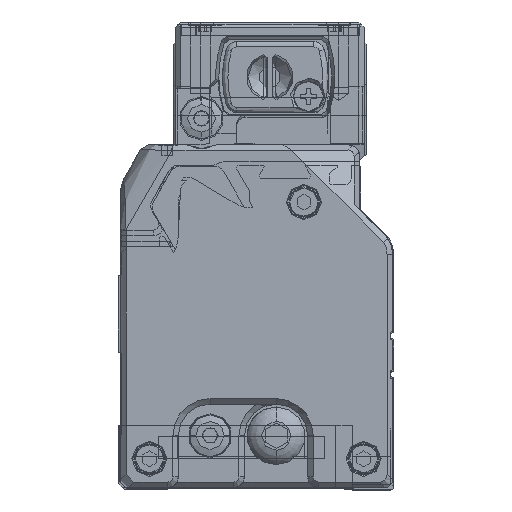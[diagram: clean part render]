
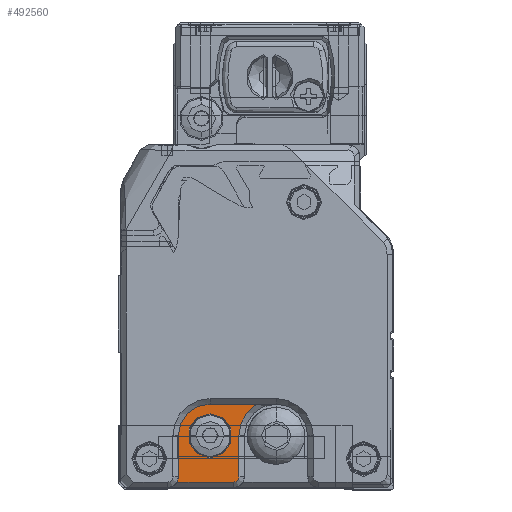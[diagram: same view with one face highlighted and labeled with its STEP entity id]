
A CAD part, left-side view. The second image highlights one B-rep face of the part: STEP entity #492560.
In plain terms, the highlighted planar face has unit normal (-1, 0, 0) as drawn and (1, 0, 0) by its records, which use the part's own axes.
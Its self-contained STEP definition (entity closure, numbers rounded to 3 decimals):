
#491660=CARTESIAN_POINT('',(6064.177,-5.938,
-12.8));
#491670=DIRECTION('',(-1.,0.,0.));
#491680=DIRECTION('',(0.,0.,-1.));
#491690=AXIS2_PLACEMENT_3D('',#491660,#491670,#491680);
#491700=PLANE('',#491690);
#491710=CARTESIAN_POINT('',(6064.177,4.212,
11.598));
#491720=DIRECTION('',(0.,-1.,0.));
#491730=VECTOR('',#491720,1.);
#491740=LINE('',#491710,#491730);
#491750=CARTESIAN_POINT('',(6064.177,8.48,
11.598));
#491760=VERTEX_POINT('',#491750);
#491770=CARTESIAN_POINT('',(6064.177,-1.788,
11.598));
#491780=VERTEX_POINT('',#491770);
#491790=EDGE_CURVE('',#491760,#491780,#491740,.T.);
#491800=ORIENTED_EDGE('',*,*,#491790,.T.);
#491810=CARTESIAN_POINT('',(6064.177,10.212,
10.598));
#491820=DIRECTION('',(-1.,0.,0.));
#491830=DIRECTION('',(0.,1.,0.));
#491840=AXIS2_PLACEMENT_3D('',#491810,#491820,#491830);
#491850=CIRCLE('',#491840,2.);
#491860=CARTESIAN_POINT('',(6064.177,8.212,
10.598));
#491870=VERTEX_POINT('',#491860);
#491880=EDGE_CURVE('',#491870,#491760,#491850,.T.);
#491890=ORIENTED_EDGE('',*,*,#491880,.T.);
#491900=CARTESIAN_POINT('',(6064.177,8.212,
3.148));
#491910=DIRECTION('',(0.,0.,1.));
#491920=VECTOR('',#491910,1.);
#491930=LINE('',#491900,#491920);
#491940=CARTESIAN_POINT('',(6064.177,8.212,
3.148));
#491950=VERTEX_POINT('',#491940);
#491960=EDGE_CURVE('',#491950,#491870,#491930,.T.);
#491970=ORIENTED_EDGE('',*,*,#491960,.T.);
#491980=CARTESIAN_POINT('',(6064.177,2.462,
3.148));
#491990=DIRECTION('',(-1.,0.,0.));
#492000=DIRECTION('',(0.,1.,0.));
#492010=AXIS2_PLACEMENT_3D('',#491980,#491990,#492000);
#492020=CIRCLE('',#492010,5.75);
#492030=CARTESIAN_POINT('',(6064.177,2.462,
-2.602));
#492040=VERTEX_POINT('',#492030);
#492050=EDGE_CURVE('',#491950,#492040,#492020,.T.);
#492060=ORIENTED_EDGE('',*,*,#492050,.F.);
#492070=CARTESIAN_POINT('',(6064.177,-5.888,
-2.602));
#492080=DIRECTION('',(0.,1.,0.));
#492090=VECTOR('',#492080,1.);
#492100=LINE('',#492070,#492090);
#492110=CARTESIAN_POINT('',(6064.177,-6.002,
-2.602));
#492120=VERTEX_POINT('',#492110);
#492130=EDGE_CURVE('',#492120,#492040,#492100,.T.);
#492140=ORIENTED_EDGE('',*,*,#492130,.T.);
#492150=CARTESIAN_POINT('',(6064.177,-9.538,
3.148));
#492160=DIRECTION('',(-1.,0.,0.));
#492170=DIRECTION('',(0.,1.,0.));
#492180=AXIS2_PLACEMENT_3D('',#492150,#492160,#492170);
#492190=CIRCLE('',#492180,6.75);
#492200=CARTESIAN_POINT('',(6064.177,-2.788,
3.148));
#492210=VERTEX_POINT('',#492200);
#492220=EDGE_CURVE('',#492210,#492120,#492190,.T.);
#492230=ORIENTED_EDGE('',*,*,#492220,.T.);
#492240=CARTESIAN_POINT('',(6064.177,-2.788,
6.873));
#492250=DIRECTION('',(0.,0.,-1.));
#492260=VECTOR('',#492250,1.);
#492270=LINE('',#492240,#492260);
#492280=CARTESIAN_POINT('',(6064.177,-2.788,
10.598));
#492290=VERTEX_POINT('',#492280);
#492300=EDGE_CURVE('',#492290,#492210,#492270,.T.);
#492310=ORIENTED_EDGE('',*,*,#492300,.T.);
#492320=CARTESIAN_POINT('',(6064.177,-1.788,
10.598));
#492330=DIRECTION('',(-1.,0.,0.));
#492340=DIRECTION('',(0.,1.,0.));
#492350=AXIS2_PLACEMENT_3D('',#492320,#492330,#492340);
#492360=CIRCLE('',#492350,1.);
#492370=EDGE_CURVE('',#492290,#491780,#492360,.T.);
#492380=ORIENTED_EDGE('',*,*,#492370,.F.);
#492390=EDGE_LOOP('',(#492380,#492310,#492230,#492140,#492060,#491970,
#491890,#491800));
#492400=FACE_OUTER_BOUND('',#492390,.T.);
#492410=CARTESIAN_POINT('',(6064.177,2.462,
3.148));
#492420=DIRECTION('',(-1.,0.,0.));
#492430=DIRECTION('',(0.,0.,-1.));
#492440=AXIS2_PLACEMENT_3D('',#492410,#492420,#492430);
#492450=CIRCLE('',#492440,4.);
#492460=CARTESIAN_POINT('',(6064.177,2.462,
7.148));
#492470=VERTEX_POINT('',#492460);
#492480=CARTESIAN_POINT('',(6064.177,2.462,
-0.852));
#492490=VERTEX_POINT('',#492480);
#492500=EDGE_CURVE('',#492470,#492490,#492450,.T.);
#492510=ORIENTED_EDGE('',*,*,#492500,.T.);
#492520=EDGE_CURVE('',#492490,#492470,#492450,.T.);
#492530=ORIENTED_EDGE('',*,*,#492520,.T.);
#492540=EDGE_LOOP('',(#492530,#492510));
#492550=FACE_BOUND('',#492540,.T.);
#492560=ADVANCED_FACE('',(#492400,#492550),#491700,.F.);
